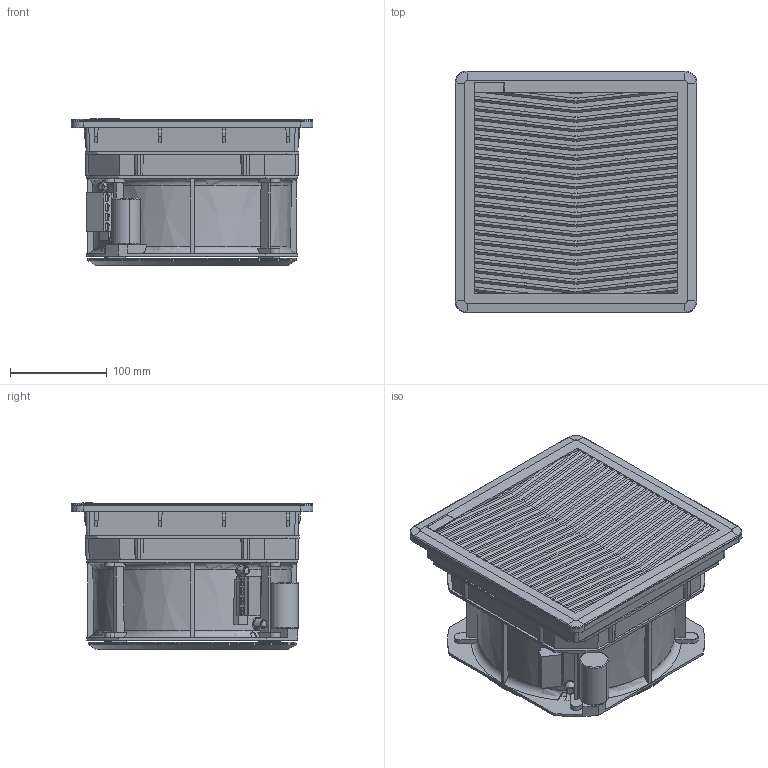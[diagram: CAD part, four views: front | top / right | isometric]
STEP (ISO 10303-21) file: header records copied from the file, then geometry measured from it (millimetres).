
FILE_DESCRIPTION (( 'STEP AP214' ), '1' );
FILE_NAME ('FF15GDAxxxyJ.STEP', '2023-10-02T10:57:03', ( '' ), ( '' ), 'SwSTEP 2.0', 'SolidWorks 2022', '' );
FILE_SCHEMA (( 'AUTOMOTIVE_DESIGN' ));
Length unit declared in the file: millimetre
Products named in the file (11): DT-02093DSI_C22s semplificato con cond.; DT-03230DSI_Assieme semplificato; GMP200NK_semplificata; DT-02091DSI_semplificato; DT-04082DSI_mostrina semplificata; DT-02092DSI_b_semplificato; DT-00158DSI_Sede etichetta semplificato; DT-04053DSI_Semplificato; FF15GDAxxxyJ; 040014_LK_980-01-4_Semplificata; DT-00159DSI_Base semplificata
Assembly tree (10 placements, depth 3):
  FF15GDAxxxyJ
    DT-03230DSI_Assieme semplificato
      DT-00159DSI_Base semplificata
      DT-00158DSI_Sede etichetta semplificato
      DT-04082DSI_mostrina semplificata
    DT-04053DSI_Semplificato
    DT-02093DSI_C22s semplificato con cond.
      DT-02091DSI_semplificato
      DT-02092DSI_b_semplificato
      040014_LK_980-01-4_Semplificata
    GMP200NK_semplificata
Bounding box: 250.12 x 250.08 x 151.07 mm (x, y, z)
Volume: 5875367.1 mm3; surface area: 696024.6 mm2
Topology: 7 solids, 8 shells, 960 faces, 2717 edges, 1790 vertices
Faces by surface type: plane 745, bspline 82, cylinder 53, cone 41, torus 39
Entity records: 40962 total; most frequent: CARTESIAN_POINT 17154, ORIENTED_EDGE 5432, DIRECTION 3619, EDGE_CURVE 2716, VERTEX_POINT 1790, VECTOR 1337, LINE 1337, AXIS2_PLACEMENT_3D 1141
